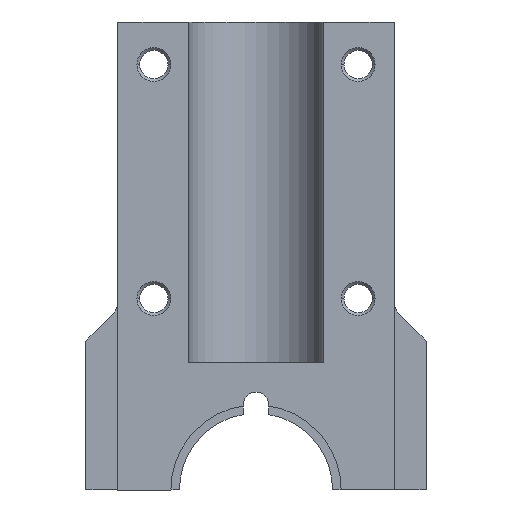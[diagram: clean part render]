
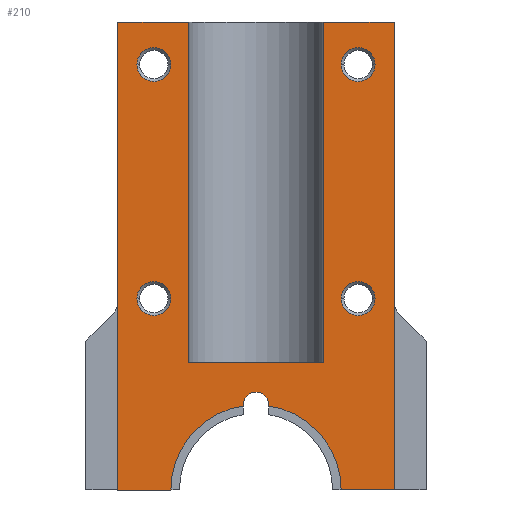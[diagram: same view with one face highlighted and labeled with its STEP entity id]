
A CAD part, left-side view. The second image highlights one B-rep face of the part: STEP entity #210.
In plain terms, the highlighted planar face has unit normal (-1, 0, 0).
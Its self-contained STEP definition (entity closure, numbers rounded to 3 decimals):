
#210=ADVANCED_FACE('',(#402,#403,#404,#405,#306),#986,.T.);
#306=FACE_OUTER_BOUND('',#424,.F.);
#402=FACE_BOUND('',#420,.F.);
#403=FACE_BOUND('',#421,.F.);
#404=FACE_BOUND('',#422,.F.);
#405=FACE_BOUND('',#423,.F.);
#420=EDGE_LOOP('',(#534,#535));
#421=EDGE_LOOP('',(#536,#537));
#422=EDGE_LOOP('',(#538,#539));
#423=EDGE_LOOP('',(#540,#541));
#424=EDGE_LOOP('',(#542,#543,#544,#545,#546,#547,#548,#549,#550,#551,#552,
#553,#554,#555,#556,#557));
#534=ORIENTED_EDGE('',*,*,#1958,.T.);
#535=ORIENTED_EDGE('',*,*,#1957,.T.);
#536=ORIENTED_EDGE('',*,*,#1934,.T.);
#537=ORIENTED_EDGE('',*,*,#1935,.T.);
#538=ORIENTED_EDGE('',*,*,#1962,.T.);
#539=ORIENTED_EDGE('',*,*,#1961,.T.);
#540=ORIENTED_EDGE('',*,*,#1930,.T.);
#541=ORIENTED_EDGE('',*,*,#1931,.T.);
#542=ORIENTED_EDGE('',*,*,#1952,.T.);
#543=ORIENTED_EDGE('',*,*,#1953,.T.);
#544=ORIENTED_EDGE('',*,*,#1926,.T.);
#545=ORIENTED_EDGE('',*,*,#1927,.T.);
#546=ORIENTED_EDGE('',*,*,#1925,.T.);
#547=ORIENTED_EDGE('',*,*,#1911,.T.);
#548=ORIENTED_EDGE('',*,*,#1951,.T.);
#549=ORIENTED_EDGE('',*,*,#1906,.T.);
#550=ORIENTED_EDGE('',*,*,#1956,.T.);
#551=ORIENTED_EDGE('',*,*,#1955,.T.);
#552=ORIENTED_EDGE('',*,*,#1939,.F.);
#553=ORIENTED_EDGE('',*,*,#1938,.T.);
#554=ORIENTED_EDGE('',*,*,#1937,.T.);
#555=ORIENTED_EDGE('',*,*,#1936,.T.);
#556=ORIENTED_EDGE('',*,*,#1954,.T.);
#557=ORIENTED_EDGE('',*,*,#1899,.T.);
#986=PLANE('',#2420);
#1650=LINE('',#3207,#1774);
#1656=LINE('',#3214,#1780);
#1670=LINE('',#3233,#1794);
#1671=LINE('',#3234,#1795);
#1672=LINE('',#3244,#1796);
#1673=LINE('',#3245,#1797);
#1674=LINE('',#3246,#1798);
#1675=LINE('',#3247,#1799);
#1685=LINE('',#3259,#1809);
#1686=LINE('',#3260,#1810);
#1687=LINE('',#3262,#1811);
#1688=LINE('',#3263,#1812);
#1689=LINE('',#3264,#1813);
#1774=VECTOR('',#2579,44.157);
#1780=VECTOR('',#2587,44.157);
#1794=VECTOR('',#2611,0.226);
#1795=VECTOR('',#2612,0.226);
#1796=VECTOR('',#2631,16.633);
#1797=VECTOR('',#2632,80.);
#1798=VECTOR('',#2633,31.734);
#1799=VECTOR('',#2634,80.);
#1809=VECTOR('',#2648,12.5);
#1810=VECTOR('',#2649,12.5);
#1811=VECTOR('',#2652,65.843);
#1812=VECTOR('',#2653,16.633);
#1813=VECTOR('',#2654,65.843);
#1899=EDGE_CURVE('',#2309,#2310,#1650,.T.);
#1906=EDGE_CURVE('',#2303,#2302,#1656,.T.);
#1911=EDGE_CURVE('',#2295,#2294,#2125,.T.);
#1925=EDGE_CURVE('',#2283,#2295,#1670,.T.);
#1926=EDGE_CURVE('',#2290,#2282,#1671,.T.);
#1927=EDGE_CURVE('',#2282,#2283,#2127,.T.);
#1930=EDGE_CURVE('',#2279,#2278,#2130,.T.);
#1931=EDGE_CURVE('',#2278,#2279,#2131,.T.);
#1934=EDGE_CURVE('',#2275,#2274,#2134,.T.);
#1935=EDGE_CURVE('',#2274,#2275,#2135,.T.);
#1936=EDGE_CURVE('',#2273,#2272,#1672,.T.);
#1937=EDGE_CURVE('',#2271,#2273,#1673,.T.);
#1938=EDGE_CURVE('',#2270,#2271,#1674,.T.);
#1939=EDGE_CURVE('',#2270,#2269,#1675,.T.);
#1951=EDGE_CURVE('',#2294,#2303,#1685,.T.);
#1952=EDGE_CURVE('',#2310,#2256,#1686,.T.);
#1953=EDGE_CURVE('',#2256,#2290,#2138,.T.);
#1954=EDGE_CURVE('',#2272,#2309,#1687,.T.);
#1955=EDGE_CURVE('',#2255,#2269,#1688,.T.);
#1956=EDGE_CURVE('',#2302,#2255,#1689,.T.);
#1957=EDGE_CURVE('',#2254,#2253,#2139,.T.);
#1958=EDGE_CURVE('',#2253,#2254,#2140,.T.);
#1961=EDGE_CURVE('',#2250,#2249,#2143,.T.);
#1962=EDGE_CURVE('',#2249,#2250,#2144,.T.);
#2125=CIRCLE('',#2371,20.);
#2127=CIRCLE('',#2373,3.);
#2130=CIRCLE('',#2376,4.);
#2131=CIRCLE('',#2377,4.);
#2134=CIRCLE('',#2380,4.);
#2135=CIRCLE('',#2381,4.);
#2138=CIRCLE('',#2384,20.);
#2139=CIRCLE('',#2385,4.);
#2140=CIRCLE('',#2386,4.);
#2143=CIRCLE('',#2389,4.);
#2144=CIRCLE('',#2390,4.);
#2249=VERTEX_POINT('',#3135);
#2250=VERTEX_POINT('',#3136);
#2253=VERTEX_POINT('',#3139);
#2254=VERTEX_POINT('',#3140);
#2255=VERTEX_POINT('',#3141);
#2256=VERTEX_POINT('',#3142);
#2269=VERTEX_POINT('',#3155);
#2270=VERTEX_POINT('',#3156);
#2271=VERTEX_POINT('',#3157);
#2272=VERTEX_POINT('',#3158);
#2273=VERTEX_POINT('',#3159);
#2274=VERTEX_POINT('',#3160);
#2275=VERTEX_POINT('',#3161);
#2278=VERTEX_POINT('',#3164);
#2279=VERTEX_POINT('',#3165);
#2282=VERTEX_POINT('',#3168);
#2283=VERTEX_POINT('',#3169);
#2290=VERTEX_POINT('',#3176);
#2294=VERTEX_POINT('',#3180);
#2295=VERTEX_POINT('',#3181);
#2302=VERTEX_POINT('',#3188);
#2303=VERTEX_POINT('',#3189);
#2309=VERTEX_POINT('',#3195);
#2310=VERTEX_POINT('',#3196);
#2371=AXIS2_PLACEMENT_3D('',#3219,#2595,#2596);
#2373=AXIS2_PLACEMENT_3D('',#3235,#2613,#2614);
#2376=AXIS2_PLACEMENT_3D('',#3238,#2619,#2620);
#2377=AXIS2_PLACEMENT_3D('',#3239,#2621,#2622);
#2380=AXIS2_PLACEMENT_3D('',#3242,#2627,#2628);
#2381=AXIS2_PLACEMENT_3D('',#3243,#2629,#2630);
#2384=AXIS2_PLACEMENT_3D('',#3261,#2650,#2651);
#2385=AXIS2_PLACEMENT_3D('',#3265,#2655,#2656);
#2386=AXIS2_PLACEMENT_3D('',#3266,#2657,#2658);
#2389=AXIS2_PLACEMENT_3D('',#3269,#2663,#2664);
#2390=AXIS2_PLACEMENT_3D('',#3270,#2665,#2666);
#2420=AXIS2_PLACEMENT_3D('',#3344,#2769,#2770);
#2579=DIRECTION('',(0.,0.,-1.));
#2587=DIRECTION('',(0.,0.,1.));
#2595=DIRECTION('',(-1.,0.,0.));
#2596=DIRECTION('',(0.,0.15,0.989));
#2611=DIRECTION('',(0.,0.,-1.));
#2612=DIRECTION('',(0.,0.,1.));
#2613=DIRECTION('',(-1.,0.,0.));
#2614=DIRECTION('',(0.,-1.,0.));
#2619=DIRECTION('',(-1.,0.,0.));
#2620=DIRECTION('',(0.,1.,0.));
#2621=DIRECTION('',(-1.,0.,0.));
#2622=DIRECTION('',(0.,-1.,0.));
#2627=DIRECTION('',(-1.,0.,0.));
#2628=DIRECTION('',(0.,1.,0.));
#2629=DIRECTION('',(-1.,0.,0.));
#2630=DIRECTION('',(0.,-1.,0.));
#2631=DIRECTION('',(0.,-1.,0.));
#2632=DIRECTION('',(0.,0.,1.));
#2633=DIRECTION('',(0.,-1.,0.));
#2634=DIRECTION('',(0.,0.,1.));
#2648=DIRECTION('',(0.,1.,0.));
#2649=DIRECTION('',(0.,1.,0.));
#2650=DIRECTION('',(-1.,0.,0.));
#2651=DIRECTION('',(0.,-1.,0.));
#2652=DIRECTION('',(0.,0.,-1.));
#2653=DIRECTION('',(0.,-1.,0.));
#2654=DIRECTION('',(0.,0.,1.));
#2655=DIRECTION('',(-1.,0.,0.));
#2656=DIRECTION('',(0.,-1.,0.));
#2657=DIRECTION('',(-1.,0.,0.));
#2658=DIRECTION('',(0.,1.,0.));
#2663=DIRECTION('',(-1.,0.,0.));
#2664=DIRECTION('',(0.,-1.,0.));
#2665=DIRECTION('',(-1.,0.,0.));
#2666=DIRECTION('',(0.,1.,0.));
#2769=DIRECTION('',(-1.,0.,0.));
#2770=DIRECTION('',(0.,0.,1.));
#3135=CARTESIAN_POINT('',(1122.375,399.252,501.874));
#3136=CARTESIAN_POINT('',(1122.375,391.252,501.874));
#3139=CARTESIAN_POINT('',(1122.375,447.252,556.874));
#3140=CARTESIAN_POINT('',(1122.375,439.252,556.874));
#3141=CARTESIAN_POINT('',(1122.375,451.752,566.874));
#3142=CARTESIAN_POINT('',(1122.375,399.252,456.874));
#3155=CARTESIAN_POINT('',(1122.375,435.119,566.874));
#3156=CARTESIAN_POINT('',(1122.375,435.119,486.874));
#3157=CARTESIAN_POINT('',(1122.375,403.385,486.874));
#3158=CARTESIAN_POINT('',(1122.375,386.752,566.874));
#3159=CARTESIAN_POINT('',(1122.375,403.385,566.874));
#3160=CARTESIAN_POINT('',(1122.375,391.252,556.874));
#3161=CARTESIAN_POINT('',(1122.375,399.252,556.874));
#3164=CARTESIAN_POINT('',(1122.375,439.252,501.874));
#3165=CARTESIAN_POINT('',(1122.375,447.252,501.874));
#3168=CARTESIAN_POINT('',(1122.375,416.252,476.874));
#3169=CARTESIAN_POINT('',(1122.375,422.252,476.874));
#3176=CARTESIAN_POINT('',(1122.375,416.252,476.648));
#3180=CARTESIAN_POINT('',(1122.375,439.252,456.874));
#3181=CARTESIAN_POINT('',(1122.375,422.252,476.648));
#3188=CARTESIAN_POINT('',(1122.375,451.752,501.031));
#3189=CARTESIAN_POINT('',(1122.375,451.752,456.874));
#3195=CARTESIAN_POINT('',(1122.375,386.752,501.031));
#3196=CARTESIAN_POINT('',(1122.375,386.752,456.874));
#3207=CARTESIAN_POINT('',(1122.375,386.752,501.031));
#3214=CARTESIAN_POINT('',(1122.375,451.752,456.874));
#3219=CARTESIAN_POINT('',(1122.375,419.252,456.874));
#3233=CARTESIAN_POINT('',(1122.375,422.252,476.874));
#3234=CARTESIAN_POINT('',(1122.375,416.252,476.648));
#3235=CARTESIAN_POINT('',(1122.375,419.252,476.874));
#3238=CARTESIAN_POINT('',(1122.375,443.252,501.874));
#3239=CARTESIAN_POINT('',(1122.375,443.252,501.874));
#3242=CARTESIAN_POINT('',(1122.375,395.252,556.874));
#3243=CARTESIAN_POINT('',(1122.375,395.252,556.874));
#3244=CARTESIAN_POINT('',(1122.375,403.385,566.874));
#3245=CARTESIAN_POINT('',(1122.375,403.385,486.874));
#3246=CARTESIAN_POINT('',(1122.375,435.119,486.874));
#3247=CARTESIAN_POINT('',(1122.375,435.119,486.874));
#3259=CARTESIAN_POINT('',(1122.375,439.252,456.874));
#3260=CARTESIAN_POINT('',(1122.375,386.752,456.874));
#3261=CARTESIAN_POINT('',(1122.375,419.252,456.874));
#3262=CARTESIAN_POINT('',(1122.375,386.752,566.874));
#3263=CARTESIAN_POINT('',(1122.375,451.752,566.874));
#3264=CARTESIAN_POINT('',(1122.375,451.752,501.031));
#3265=CARTESIAN_POINT('',(1122.375,443.252,556.874));
#3266=CARTESIAN_POINT('',(1122.375,443.252,556.874));
#3269=CARTESIAN_POINT('',(1122.375,395.252,501.874));
#3270=CARTESIAN_POINT('',(1122.375,395.252,501.874));
#3344=CARTESIAN_POINT('',(1122.375,378.152,455.774));
